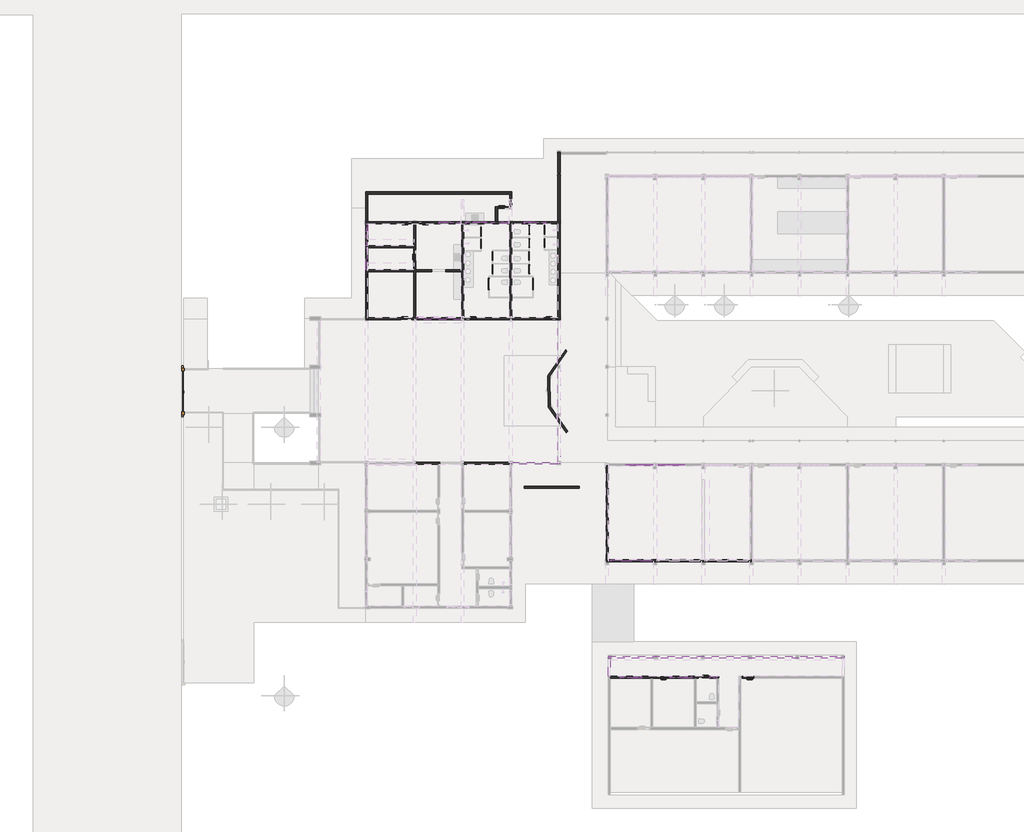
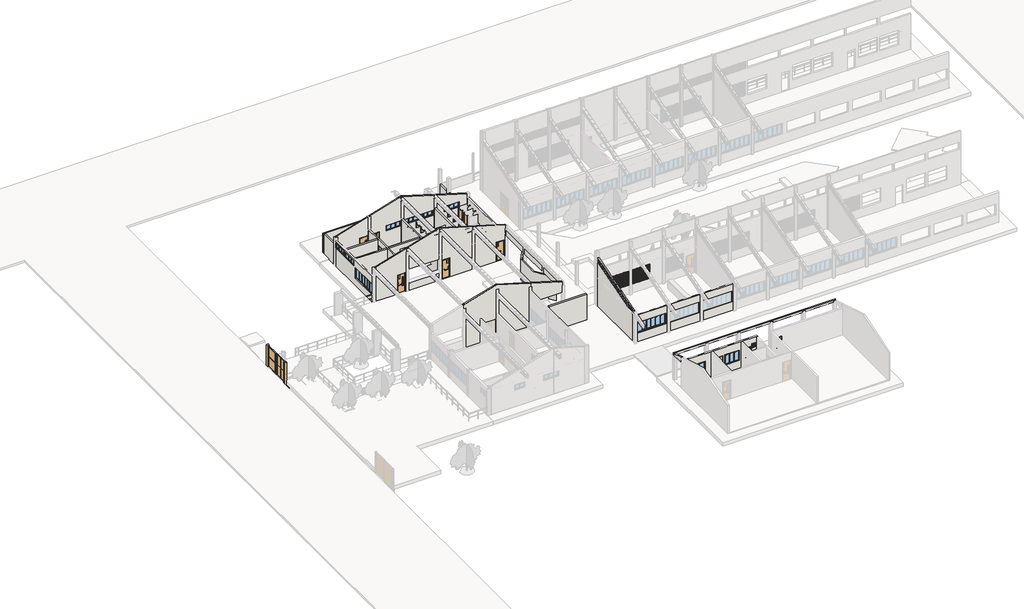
# One storey, part 2 of 12: 29 walls, 23 doors, 12 windows.
"""IFC4 building model written with IfcOpenShell, lengths in millimetres."""

from ifc_helpers import new_model, si_unit, point, frame, frame_2d, origin, place, context, project, spatial, polyline, circle_curve, trimmed, segment, composite_curve, outline, extrude, faceted_brep, transform, mapped, element, save
from components import door_2b58ae42, door_062d9f42, door_b9a7b7f6, door_f5953a39, door_f67fff5c, pt41_300x235cm_02f68b07, porta_60x165_15_827af2f1, porta_60x165_15_384a7155, porta_60x165_15_96589805, porta_60x165_15_8e7424f7, window_f572775f, window_a88563cc, window_1a4b773a, window_300_x_110_bd0b738a, janela_fc375d33, janela_150x110_150_x_110_7297cc43, janela_150x110_150_x_50_c6653376, janela_300x110_300_x_50_d4cdcd56

model = new_model("IFC4")

# Units and contexts
model_context = context("Model", 3, world=origin())
ifc_project = project(units=[si_unit("LENGTHUNIT", "METRE", prefix="MILLI")], contexts=[model_context])

# Site, building, storey
site = spatial("IfcSite", under=ifc_project)
building = spatial("IfcBuilding", under=site)
storey = spatial("IfcBuildingStorey", under=building, Name="Nível 1", Elevation=0.0)

# Doors
placement = place(None, origin())
door_shape = door_2b58ae42(model_context)
element("IfcDoor", 1, ObjectType="Porta sala de aula e laboratorio : Porta sala de aula e laboratorio", at=placement, inside=storey, context=model_context, shape_type="MappedRepresentation", body=[
    mapped(door_shape, transform((6776.5398414, 226.3249037, 300.0), x_axis=(1.0, 0.0, 0.0), y_axis=(0.0, 1.0, 0.0), z_axis=(0.0, 0.0, 1.0))),
])
element("IfcDoor", 2, ObjectType="Porta sala de aula e laboratorio : Porta sala de aula e laboratorio", at=placement, inside=storey, context=model_context, shape_type="MappedRepresentation", body=[
    mapped(door_shape, transform((13056.5285525, 226.3249037, 300.0), x_axis=(1.0, 0.0, 0.0), y_axis=(0.0, 1.0, 0.0), z_axis=(0.0, 0.0, 1.0))),
])
element("IfcDoor", 3, ObjectType="Porta area administrativa : Porta area administrativa", at=placement, inside=storey, context=model_context, shape_type="MappedRepresentation", body=[
    mapped(door_shape, transform((-11803.4712416, 26331.1862478, 300.0), x_axis=(-1.0, 0.0, 0.0), y_axis=(0.0, -1.0, 0.0), z_axis=(0.0, 0.0, 1.0))),
])
door_2_shape = door_062d9f42(model_context)
element("IfcDoor", 4, ObjectType="Porta banheiros : Porta banheiros", at=placement, inside=storey, context=model_context, shape_type="MappedRepresentation", body=[
    mapped(door_2_shape, transform((9826.5285525, 226.3249037, 300.0), x_axis=(1.0, 0.0, 0.0), y_axis=(0.0, 1.0, 0.0), z_axis=(0.0, 0.0, 1.0))),
])
element("IfcDoor", 5, ObjectType="Porta banheiros : Porta banheiros", at=placement, inside=storey, context=model_context, shape_type="MappedRepresentation", body=[
    mapped(door_2_shape, transform((-7093.4714475, 26331.1862478, 300.0), x_axis=(1.0, 0.0, 0.0), y_axis=(0.0, 1.0, 0.0), z_axis=(0.0, 0.0, 1.0))),
])
door_3_shape = door_b9a7b7f6(model_context)
element("IfcDoor", 6, ObjectType="Porta banheiros : Porta banheiros", at=placement, inside=storey, context=model_context, shape_type="MappedRepresentation", body=[
    mapped(door_3_shape, transform((-1303.4714475, 26331.1862478, 300.0), x_axis=(-1.0, 0.0, 0.0), y_axis=(0.0, -1.0, 0.0), z_axis=(0.0, 0.0, 1.0))),
])
door_4_shape = door_f5953a39(model_context)
element("IfcDoor", 7, ObjectType="Porta area de servico : Porta area de servico", at=placement, inside=storey, context=model_context, shape_type="MappedRepresentation", body=[
    mapped(door_4_shape, transform((-11773.4712416, 33331.1862478, 300.0), x_axis=(-1.0, 0.0, 0.0), y_axis=(0.0, -1.0, 0.0), z_axis=(0.0, 0.0, 1.0))),
])
door_5_shape = door_f67fff5c(model_context)
element("IfcDoor", 8, ObjectType="Porta area de servico : Porta area de servico", at=placement, inside=storey, context=model_context, shape_type="MappedRepresentation", body=[
    mapped(door_5_shape, transform((-10553.4712416, 33331.1862478, 300.0), x_axis=(1.0, 0.0, 0.0), y_axis=(0.0, 1.0, 0.0), z_axis=(0.0, 0.0, 1.0))),
])
element("IfcDoor", 9, ObjectType="Porta area de servico : Porta area de servico", at=placement, inside=storey, context=model_context, shape_type="MappedRepresentation", body=[
    mapped(door_5_shape, transform((-11198.4712416, 30951.1862478, 300.0), x_axis=(0.0, -1.0, 0.0), y_axis=(1.0, 0.0, 0.0), z_axis=(0.0, 0.0, 1.0))),
])
element("IfcDoor", 10, ObjectType="Porta area de servico : Porta area de servico", at=placement, inside=storey, context=model_context, shape_type="MappedRepresentation", body=[
    mapped(door_5_shape, transform((-4737.9962656, 34406.185787, 265.0), x_axis=(-1.0, 0.0, 0.0), y_axis=(0.0, -1.0, 0.0), z_axis=(0.0, 0.0, 1.0))),
])
pt41_300x235cm_shape = pt41_300x235cm_02f68b07(model_context)
element("IfcDoor", 11, ObjectType="FDE_PT41_Portão_UsoExterno_ChapaDeAço_2Folhas : PT41_300x235cm", at=placement, inside=storey, context=model_context, shape_type="MappedRepresentation", body=[
    mapped(pt41_300x235cm_shape, transform((-28067.0268603, 21042.6862478, 0.0), x_axis=(0.0, 1.0, 0.0), y_axis=(-1.0, 0.0, 0.0), z_axis=(0.0, 0.0, 1.0))),
])
porta_60x165_15_shape = porta_60x165_15_827af2f1(model_context)
element("IfcDoor", 12, ObjectType="Porta 60x165-15 : De Abrir_1 (uma) folha", at=placement, inside=storey, context=model_context, shape_type="MappedRepresentation", body=[
    mapped(porta_60x165_15_shape, transform((-2847.5042637, 32796.1862478, 300.0), x_axis=(0.0, 1.0, 0.0), y_axis=(-1.0, 0.0, 0.0), z_axis=(0.0, 0.0, 1.0))),
])
element("IfcDoor", 13, ObjectType="Porta 60x165-15 : De Abrir_1 (uma) folha", at=placement, inside=storey, context=model_context, shape_type="MappedRepresentation", body=[
    mapped(porta_60x165_15_shape, transform((-2847.5042637, 31839.9362478, 300.0), x_axis=(0.0, 1.0, 0.0), y_axis=(-1.0, 0.0, 0.0), z_axis=(0.0, 0.0, 1.0))),
])
element("IfcDoor", 14, ObjectType="Porta 60x165-15 : De Abrir_1 (uma) folha", at=placement, inside=storey, context=model_context, shape_type="MappedRepresentation", body=[
    mapped(porta_60x165_15_shape, transform((-2854.5202793, 30891.1862478, 300.0), x_axis=(0.0, 1.0, 0.0), y_axis=(-1.0, 0.0, 0.0), z_axis=(0.0, 0.0, 1.0))),
])
element("IfcDoor", 15, ObjectType="Porta 60x165-15 : De Abrir_1 (uma) folha", at=placement, inside=storey, context=model_context, shape_type="MappedRepresentation", body=[
    mapped(porta_60x165_15_shape, transform((-2849.5202793, 29939.9362478, 300.0), x_axis=(0.0, 1.0, 0.0), y_axis=(-1.0, 0.0, 0.0), z_axis=(0.0, 0.0, 1.0))),
])
porta_60x165_15_2_shape = porta_60x165_15_384a7155(model_context)
element("IfcDoor", 16, ObjectType="Porta 60x165-15 : De Abrir_1 (uma) folha", at=placement, inside=storey, context=model_context, shape_type="MappedRepresentation", body=[
    mapped(porta_60x165_15_2_shape, transform((-1773.4714475, 32796.1862478, 300.0), x_axis=(0.0, 1.0, 0.0), y_axis=(-1.0, 0.0, 0.0), z_axis=(0.0, 0.0, 1.0))),
])
element("IfcDoor", 17, ObjectType="Porta 60x165-15 : De Abrir_1 (uma) folha", at=placement, inside=storey, context=model_context, shape_type="MappedRepresentation", body=[
    mapped(porta_60x165_15_2_shape, transform((-1773.4714475, 31841.1862478, 300.0), x_axis=(0.0, 1.0, 0.0), y_axis=(-1.0, 0.0, 0.0), z_axis=(0.0, 0.0, 1.0))),
])
element("IfcDoor", 18, ObjectType="Porta 60x165-15 : De Abrir_1 (uma) folha", at=placement, inside=storey, context=model_context, shape_type="MappedRepresentation", body=[
    mapped(porta_60x165_15_2_shape, transform((-5547.4226157, 29939.9362478, 300.0), x_axis=(0.0, 1.0, 0.0), y_axis=(-1.0, 0.0, 0.0), z_axis=(0.0, 0.0, 1.0))),
])
element("IfcDoor", 19, ObjectType="Porta 60x165-15 : De Abrir_1 (uma) folha", at=placement, inside=storey, context=model_context, shape_type="MappedRepresentation", body=[
    mapped(porta_60x165_15_2_shape, transform((-5542.4226157, 30891.1862478, 300.0), x_axis=(0.0, 1.0, 0.0), y_axis=(-1.0, 0.0, 0.0), z_axis=(0.0, 0.0, 1.0))),
])
element("IfcDoor", 20, ObjectType="Porta 60x165-15 : De Abrir_1 (uma) folha", at=placement, inside=storey, context=model_context, shape_type="MappedRepresentation", body=[
    mapped(porta_60x165_15_2_shape, transform((-6348.4714475, 32656.1862478, 300.0), x_axis=(0.0, -1.0, 0.0), y_axis=(1.0, 0.0, 0.0), z_axis=(0.0, 0.0, 1.0))),
])
element("IfcDoor", 21, ObjectType="Porta 60x165-15 : De Abrir_1 (uma) folha", at=placement, inside=storey, context=model_context, shape_type="MappedRepresentation", body=[
    mapped(porta_60x165_15_2_shape, transform((-6348.4714475, 31781.1862478, 300.0), x_axis=(0.0, -1.0, 0.0), y_axis=(1.0, 0.0, 0.0), z_axis=(0.0, 0.0, 1.0))),
])
porta_60x165_15_3_shape = porta_60x165_15_96589805(model_context)
element("IfcDoor", 22, ObjectType="Porta 60x165-15 : De Abrir_1 (uma) folha 80cm", at=placement, inside=storey, context=model_context, shape_type="MappedRepresentation", body=[
    mapped(porta_60x165_15_3_shape, transform((-5797.4141591, 28869.0222044, 300.0), x_axis=(0.0, 1.0, 0.0), y_axis=(-1.0, 0.0, 0.0), z_axis=(0.0, 0.0, 1.0))),
])
porta_60x165_15_4_shape = porta_60x165_15_8e7424f7(model_context)
element("IfcDoor", 23, ObjectType="Porta 60x165-15 : De Abrir_1 (uma) folha 80cm", at=placement, inside=storey, context=model_context, shape_type="MappedRepresentation", body=[
    mapped(porta_60x165_15_4_shape, transform((-2599.5287359, 28869.0222044, 300.0), x_axis=(0.0, 1.0, 0.0), y_axis=(-1.0, 0.0, 0.0), z_axis=(0.0, 0.0, 1.0))),
])

# Walls
element("IfcWall", 24, ObjectType="15cm - Parede Genérica", at=placement, inside=storey, context=model_context, shape_type="Brep", body=[
    faceted_brep([(-7623.4714475, 26406.1862478, 300.0), (-7623.4714475, 33256.1862478, 300.0), (-7623.4714475, 33256.1862478, 2960.0), (-7623.4714475, 26406.1862478, 2960.0), (-7773.4714475, 26406.1862478, 300.0), (-7773.4714475, 26406.1862478, 2960.0), (-7773.4714475, 29756.1862478, 2960.0), (-7773.4714475, 29906.1862478, 2960.0), (-7773.4714475, 33256.1862478, 2960.0), (-7773.4714475, 33256.1862478, 300.0), (-7773.4714475, 29906.1862478, 300.0), (-7773.4714475, 29756.1862478, 300.0)], [[[0, 1, 2, 3]], [[4, 5, 6, 7, 8, 9, 10, 11]], [[1, 0, 4, 11, 10, 9]], [[3, 2, 8, 7, 6, 5]], [[2, 1, 9, 8]], [[0, 3, 5, 4]]]),
])
element("IfcWall", 25, ObjectType="15cm - Parede Genérica", at=placement, inside=storey, context=model_context, shape_type="Brep", body=[
    faceted_brep([(-14773.4714475, 33256.1862478, 0.0), (-14623.4714475, 33256.1862478, 0.0), (-623.4714475, 33256.1862478, 0.0), (-623.4714475, 33256.1862478, 300.0), (-623.4714475, 33256.1862478, 2915.0), (-623.4714475, 33256.1862478, 3276.6977012), (-7773.4714475, 33256.1862478, 5421.6977012), (-14773.4714475, 33256.1862478, 3321.6977012), (-14773.4714475, 33256.1862478, 2960.0), (-10123.4712416, 33256.1862478, 2300.0), (-10123.4712416, 33256.1862478, 300.0), (-10983.4712416, 33256.1862478, 300.0), (-10983.4712416, 33256.1862478, 2300.0), (-12203.4712416, 33256.1862478, 300.0), (-12203.4712416, 33256.1862478, 2300.0), (-11343.4712416, 33256.1862478, 2300.0), (-11343.4712416, 33256.1862478, 300.0), (-7838.4714475, 33256.1862478, 2735.0), (-7838.4714475, 33256.1862478, 2165.0), (-9408.4714475, 33256.1862478, 2165.0), (-9408.4714475, 33256.1862478, 2735.0), (-4413.4714475, 33256.1862478, 2735.0), (-4413.4714475, 33256.1862478, 2165.0), (-7483.4714475, 33256.1862478, 2165.0), (-7483.4714475, 33256.1862478, 2735.0), (-1663.4714475, 33256.1862478, 2735.0), (-1663.4714475, 33256.1862478, 2165.0), (-3233.4714475, 33256.1862478, 2165.0), (-3233.4714475, 33256.1862478, 2735.0), (-623.4714475, 33406.1862478, 0.0), (-14623.4714475, 33406.1862478, 0.0), (-14773.4714475, 33406.1862478, 0.0), (-14773.4714475, 33406.1862478, 2400.0), (-14773.4714475, 33406.1862478, 3321.6977012), (-7773.4714475, 33406.1862478, 5421.6977012), (-623.4714475, 33406.1862478, 3276.6977012), (-623.4714475, 33406.1862478, 1300.0), (-623.4714475, 33406.1862478, 100.0), (-10123.4712416, 33406.1862478, 300.0), (-10123.4712416, 33406.1862478, 2300.0), (-10983.4712416, 33406.1862478, 2300.0), (-10983.4712416, 33406.1862478, 300.0), (-12203.4712416, 33406.1862478, 2300.0), (-12203.4712416, 33406.1862478, 300.0), (-11343.4712416, 33406.1862478, 300.0), (-11343.4712416, 33406.1862478, 2300.0), (-7838.4714475, 33406.1862478, 2165.0), (-7838.4714475, 33406.1862478, 2735.0), (-9408.4714475, 33406.1862478, 2735.0), (-9408.4714475, 33406.1862478, 2165.0), (-4413.4714475, 33406.1862478, 2165.0), (-4413.4714475, 33406.1862478, 2735.0), (-7483.4714475, 33406.1862478, 2735.0), (-7483.4714475, 33406.1862478, 2165.0), (-1663.4714475, 33406.1862478, 2165.0), (-1663.4714475, 33406.1862478, 2735.0), (-3233.4714475, 33406.1862478, 2735.0), (-3233.4714475, 33406.1862478, 2165.0)], [[[0, 1, 2, 3, 4, 5, 6, 7, 8], [9, 10, 11, 12], [13, 14, 15, 16], [17, 18, 19, 20], [21, 22, 23, 24], [25, 26, 27, 28]], [[29, 30, 31, 32, 33, 34, 35, 36, 37], [38, 39, 40, 41], [42, 43, 44, 45], [46, 47, 48, 49], [50, 51, 52, 53], [54, 55, 56, 57]], [[2, 1, 0, 31, 30, 29]], [[31, 0, 8, 7, 33, 32]], [[9, 39, 38, 10]], [[39, 9, 12, 40]], [[40, 12, 11, 41]], [[14, 13, 43, 42]], [[15, 14, 42, 45]], [[16, 15, 45, 44]], [[10, 38, 41, 11]], [[43, 13, 16, 44]], [[2, 29, 37, 36, 35, 5, 4, 3]], [[46, 18, 17, 47]], [[19, 49, 48, 20]], [[18, 46, 49, 19]], [[50, 22, 21, 51]], [[52, 24, 23, 53]], [[22, 50, 53, 23]], [[54, 26, 25, 55]], [[27, 57, 56, 28]], [[26, 54, 57, 27]], [[20, 48, 47, 17]], [[24, 52, 51, 21]], [[28, 56, 55, 25]], [[6, 5, 35, 34]], [[7, 6, 34, 33]]]),
])
element("IfcWall", 26, ObjectType="15cm - Parede Genérica", at=placement, inside=storey, context=model_context, shape_type="SweptSolid", body=[
    extrude(outline(polyline([(-773.4714475, 26256.1862478), (-773.4714475, 33256.1862478), (-623.4714475, 33256.1862478), (-623.4714475, 26256.1862478), (-773.4714475, 26256.1862478)])), frame((0.0, 0.0, 300.0), z_axis=(0.0, 0.0, 1.0), x_axis=(1.0, 0.0, 0.0)), (0.0, 0.0, 1.0), 2615.0),
])
element("IfcWall", 27, ObjectType="15cm - Parede Genérica", at=placement, inside=storey, context=model_context, shape_type="Brep", body=[
    faceted_brep([(-773.4714475, 26406.1862478, 245.0), (-7823.5268603, 26406.1862478, 245.0), (-7823.5268603, 26406.1862478, 300.0), (-7573.4714475, 26406.1862478, 300.0), (-7573.4714475, 26406.1862478, 2960.0), (-4323.4714475, 26406.1862478, 2960.0), (-4323.4714475, 26406.1862478, 300.0), (-4073.4714475, 26406.1862478, 300.0), (-4073.4714475, 26406.1862478, 2960.0), (-823.4714475, 26406.1862478, 2960.0), (-823.4714475, 26406.1862478, 300.0), (-773.4714475, 26406.1862478, 300.0), (-6663.4714475, 26406.1862478, 300.0), (-6663.4714475, 26406.1862478, 2430.0), (-7523.4714475, 26406.1862478, 2430.0), (-7523.4714475, 26406.1862478, 300.0), (-1733.4714475, 26406.1862478, 2430.0), (-1733.4714475, 26406.1862478, 300.0), (-873.4714475, 26406.1862478, 300.0), (-873.4714475, 26406.1862478, 2430.0), (-7823.5268603, 26256.1862478, 245.0), (-773.4714475, 26256.1862478, 245.0), (-773.4714475, 26256.1862478, 300.0), (-823.4714475, 26256.1862478, 300.0), (-823.4714475, 26256.1862478, 3630.0), (-773.4714475, 26256.1862478, 3630.0), (-773.4714475, 26256.1862478, 4060.4477012), (-7788.3111843, 26256.1862478, 6164.8996222), (-7788.3111843, 26256.1862478, 5650.0), (-7573.4714475, 26256.1862478, 5650.0), (-7573.4714475, 26256.1862478, 300.0), (-7823.5268603, 26256.1862478, 300.0), (-6663.4714475, 26256.1862478, 2430.0), (-6663.4714475, 26256.1862478, 300.0), (-7523.4714475, 26256.1862478, 300.0), (-7523.4714475, 26256.1862478, 2430.0), (-1733.4714475, 26256.1862478, 300.0), (-1733.4714475, 26256.1862478, 2430.0), (-873.4714475, 26256.1862478, 2430.0), (-873.4714475, 26256.1862478, 300.0), (-4073.4714475, 26256.1862478, 300.0), (-4323.4714475, 26256.1862478, 300.0), (-4323.4714475, 26256.1862478, 4700.0), (-4073.4714475, 26256.1862478, 4700.0), (-773.4714475, 26350.3088684, 3630.0), (-773.4714475, 26350.3088684, 4060.4477012), (-7573.4714475, 26350.3088684, 5650.0), (-7573.4714475, 26350.3088684, 2960.0), (-4323.4714475, 26350.3088684, 2960.0), (-4323.4714475, 26350.3088684, 4700.0), (-4073.4714475, 26350.3088684, 4700.0), (-4073.4714475, 26350.3088684, 2960.0), (-823.4714475, 26350.3088684, 2960.0), (-823.4714475, 26350.3088684, 3630.0), (-7788.3111843, 26350.3088684, 5650.0), (-7788.3111843, 26350.3088684, 6164.8996222)], [[[0, 1, 2, 3, 4, 5, 6, 7, 8, 9, 10, 11], [12, 13, 14, 15], [16, 17, 18, 19]], [[20, 21, 22, 23, 24, 25, 26, 27, 28, 29, 30, 31], [32, 33, 34, 35], [36, 37, 38, 39], [40, 41, 42, 43]], [[1, 0, 21, 20]], [[21, 0, 11, 22]], [[26, 25, 44, 45]], [[13, 12, 33, 32]], [[14, 13, 32, 35]], [[15, 14, 35, 34]], [[16, 37, 36, 17]], [[37, 16, 19, 38]], [[38, 19, 18, 39]], [[1, 20, 31, 2]], [[33, 12, 15, 34]], [[17, 36, 39, 18]], [[30, 3, 2, 31]], [[3, 30, 29, 46, 47, 4]], [[6, 41, 40, 7]], [[41, 6, 5, 48, 49, 42]], [[7, 40, 43, 50, 51, 8]], [[10, 23, 22, 11]], [[23, 10, 9, 52, 53, 24]], [[46, 54, 55, 45, 44, 53, 52, 51, 50, 49, 48, 47]], [[29, 28, 54, 46]], [[43, 42, 49, 50]], [[25, 24, 53, 44]], [[27, 55, 54, 28]], [[4, 47, 48, 5]], [[8, 51, 52, 9]], [[27, 26, 45, 55]]]),
])
element("IfcWall", 28, ObjectType="15cm - Parede Genérica", at=placement, inside=storey, context=model_context, shape_type="SweptSolid", body=[
    extrude(outline(polyline([(-4123.4714475, 33256.1862478), (-4123.4714475, 26406.1862478), (-4273.4714475, 26406.1862478), (-4273.4714475, 33256.1862478), (-4123.4714475, 33256.1862478)])), frame((0.0, 0.0, 300.0), z_axis=(0.0, 0.0, 1.0), x_axis=(1.0, 0.0, 0.0)), (0.0, 0.0, 1.0), 2660.0),
])
element("IfcWall", 29, ObjectType="15cm - Parede Genérica", at=placement, inside=storey, context=model_context, shape_type="Brep", body=[
    faceted_brep([(-14773.4714475, 33256.1862478, 2960.0), (-14773.4714475, 33256.1862478, 0.0), (-14773.4714475, 26256.1862478, 0.0), (-14773.4714475, 26256.1862478, 2960.0), (-14773.4714475, 26581.1862478, 965.0), (-14773.4714475, 29581.1862478, 965.0), (-14773.4714475, 29581.1862478, 2135.0), (-14773.4714475, 26581.1862478, 2135.0), (-14773.4714475, 31658.6862478, 2165.0), (-14773.4714475, 33228.6862478, 2165.0), (-14773.4714475, 33228.6862478, 2735.0), (-14773.4714475, 31658.6862478, 2735.0), (-14773.4714475, 31478.6862478, 2165.0), (-14773.4714475, 31478.6862478, 2735.0), (-14773.4714475, 29908.6862478, 2735.0), (-14773.4714475, 29908.6862478, 2165.0), (-14623.4714475, 33256.1862478, 0.0), (-14623.4714475, 33256.1862478, 2960.0), (-14623.4714475, 31631.1862478, 2960.0), (-14623.4714475, 31481.1862478, 2960.0), (-14623.4714475, 29906.1862478, 2960.0), (-14623.4714475, 29756.1862478, 2960.0), (-14623.4714475, 26256.1862478, 2960.0), (-14623.4714475, 26256.1862478, 0.0), (-14623.4714475, 26581.1862478, 965.0), (-14623.4714475, 26581.1862478, 2135.0), (-14623.4714475, 29581.1862478, 2135.0), (-14623.4714475, 29581.1862478, 965.0), (-14623.4714475, 31658.6862478, 2165.0), (-14623.4714475, 31658.6862478, 2735.0), (-14623.4714475, 33228.6862478, 2735.0), (-14623.4714475, 33228.6862478, 2165.0), (-14623.4714475, 31478.6862478, 2165.0), (-14623.4714475, 29908.6862478, 2165.0), (-14623.4714475, 29908.6862478, 2735.0), (-14623.4714475, 31478.6862478, 2735.0)], [[[0, 1, 2, 3], [4, 5, 6, 7], [8, 9, 10, 11], [12, 13, 14, 15]], [[16, 17, 18, 19, 20, 21, 22, 23], [24, 25, 26, 27], [28, 29, 30, 31], [32, 33, 34, 35]], [[2, 1, 16, 23]], [[0, 3, 22, 21, 20, 19, 18, 17]], [[3, 2, 23, 22]], [[0, 17, 16, 1]], [[25, 24, 4, 7]], [[26, 25, 7, 6]], [[27, 26, 6, 5]], [[24, 27, 5, 4]], [[29, 28, 8, 11]], [[30, 29, 11, 10]], [[31, 30, 10, 9]], [[28, 31, 9, 8]], [[13, 12, 32, 35]], [[14, 13, 35, 34]], [[15, 14, 34, 33]], [[12, 15, 33, 32]]]),
])
element("IfcWall", 30, ObjectType="15cm - Parede Genérica", at=placement, inside=storey, context=model_context, shape_type="Brep", body=[
    faceted_brep([(-11123.4712416, 33256.1862478, 2960.0), (-11123.4712416, 29906.1862478, 2960.0), (-11123.4712416, 29756.1862478, 2960.0), (-11123.4712416, 26406.1862478, 2960.0), (-11123.4712416, 26406.1862478, 300.0), (-11123.4712416, 29756.1862478, 300.0), (-11123.4712416, 29906.1862478, 300.0), (-11123.4712416, 30521.1862478, 300.0), (-11123.4712416, 30521.1862478, 2300.0), (-11123.4712416, 31381.1862478, 2300.0), (-11123.4712416, 31381.1862478, 300.0), (-11123.4712416, 33256.1862478, 300.0), (-11273.4712416, 26406.1862478, 2960.0), (-11273.4712416, 29756.1862478, 2960.0), (-11273.4712416, 29906.1862478, 2960.0), (-11273.4712416, 31481.1862478, 2960.0), (-11273.4712416, 31631.1862478, 2960.0), (-11273.4712416, 33256.1862478, 2960.0), (-11273.4712416, 33256.1862478, 300.0), (-11273.4712416, 31631.1862478, 300.0), (-11273.4712416, 31481.1862478, 300.0), (-11273.4712416, 31381.1862478, 300.0), (-11273.4712416, 31381.1862478, 2300.0), (-11273.4712416, 30521.1862478, 2300.0), (-11273.4712416, 30521.1862478, 300.0), (-11273.4712416, 29906.1862478, 300.0), (-11273.4712416, 29756.1862478, 300.0), (-11273.4712416, 26406.1862478, 300.0)], [[[0, 1, 2, 3, 4, 5, 6, 7, 8, 9, 10, 11]], [[12, 13, 14, 15, 16, 17, 18, 19, 20, 21, 22, 23, 24, 25, 26, 27]], [[18, 11, 10, 21, 20, 19]], [[4, 27, 26, 25, 24, 7, 6, 5]], [[3, 2, 1, 0, 17, 16, 15, 14, 13, 12]], [[0, 11, 18, 17]], [[23, 8, 7, 24]], [[8, 23, 22, 9]], [[9, 22, 21, 10]], [[4, 3, 12, 27]]]),
])
element("IfcWall", 31, ObjectType="15cm - Parede Genérica", at=placement, inside=storey, context=model_context, shape_type="SweptSolid", body=[
    extrude(outline(polyline([(300.0, -7773.4714475), (2960.0, -7773.4714475), (2960.0, -11123.4712416), (300.0, -11123.4712416), (300.0, -9952.6789714), (2400.0, -9952.6789714), (2400.0, -8948.7737339), (300.0, -8948.7737339), (300.0, -7773.4714475)])), frame((0.0, 29756.1862478, 0.0), z_axis=(0.0, 1.0, 0.0), x_axis=(0.0, 0.0, 1.0)), (0.0, 0.0, 1.0), 150.0),
    extrude(outline(polyline([(-14623.4714475, 29756.1862478), (-14623.4714475, 29906.1862478), (-11273.4712416, 29906.1862478), (-11273.4712416, 29756.1862478), (-14623.4714475, 29756.1862478)])), frame((0.0, 0.0, 300.0), z_axis=(0.0, 0.0, 1.0), x_axis=(1.0, 0.0, 0.0)), (0.0, 0.0, 1.0), 2660.0),
])
element("IfcWall", 32, ObjectType="15cm - Parede Genérica", at=placement, inside=storey, context=model_context, shape_type="SweptSolid", body=[
    extrude(outline(polyline([(-11273.4712416, 31481.1862478), (-14623.4714475, 31481.1862478), (-14623.4714475, 31631.1862478), (-11273.4712416, 31631.1862478), (-11273.4712416, 31481.1862478)])), frame((0.0, 0.0, 300.0), z_axis=(0.0, 0.0, 1.0), x_axis=(1.0, 0.0, 0.0)), (0.0, 0.0, 1.0), 2660.0),
])
element("IfcWall", 33, ObjectType="15cm - Parede Genérica", at=placement, inside=storey, context=model_context, shape_type="Brep", body=[
    faceted_brep([(-9348.3111843, 15896.0481484, 2350.0), (-9348.3111843, 15896.0481484, 300.0), (-11073.5268603, 15896.0481484, 300.0), (-11073.5268603, 15896.0481484, 4700.0), (-11323.4946316, 15896.0481484, 4700.0), (-11323.4946316, 15896.0481484, 5104.2073698), (-7788.3111843, 15896.0481484, 6164.762404), (-4138.3111843, 15896.0481484, 5069.8996222), (-4138.3111843, 15896.0481484, 4700.0), (-4323.5268603, 15896.0481484, 4700.0), (-4323.5268603, 15896.0481484, 300.0), (-7590.9938978, 15896.0481484, 300.0), (-7590.9938978, 15896.0481484, 5650.0), (-7840.9938978, 15896.0481484, 5650.0), (-7840.9938978, 15896.0481484, 300.0), (-7858.3111843, 15896.0481484, 300.0), (-7858.3111843, 15896.0481484, 2350.0), (-9348.3111843, 15746.0481484, 300.0), (-9348.3111843, 15746.0481484, 2350.0), (-7858.3111843, 15746.0481484, 2350.0), (-7858.3111843, 15746.0481484, 300.0), (-7840.9938978, 15746.0481484, 300.0), (-7840.9938978, 15746.0481484, 5650.0), (-7590.9938978, 15746.0481484, 5650.0), (-7590.9938978, 15746.0481484, 300.0), (-4323.5268603, 15746.0481484, 300.0), (-4323.5268603, 15746.0481484, 4700.0), (-4138.3111843, 15746.0481484, 4700.0), (-4138.3111843, 15746.0481484, 5069.8996222), (-7788.3111843, 15746.0481484, 6164.8996222), (-11323.4946316, 15746.0481484, 5104.2073698), (-11323.4946316, 15746.0481484, 4700.0), (-11073.5268603, 15746.0481484, 4700.0), (-11073.5268603, 15746.0481484, 300.0), (-9538.3111843, 15746.0481484, 300.0), (-9388.3111843, 15746.0481484, 300.0), (-4138.3111843, 15747.2981484, 5069.8996222)], [[[0, 1, 2, 3, 4, 5, 6, 7, 8, 9, 10, 11, 12, 13, 14, 15, 16]], [[17, 18, 19, 20, 21, 22, 23, 24, 25, 26, 27, 28, 29, 30, 31, 32, 33, 34, 35]], [[1, 17, 35, 34, 33, 2]], [[20, 15, 14, 21]], [[10, 25, 24, 11]], [[0, 18, 17, 1]], [[18, 0, 16, 19]], [[19, 16, 15, 20]], [[30, 5, 4, 31]], [[10, 9, 26, 25]], [[3, 2, 33, 32]], [[13, 22, 21, 14]], [[23, 12, 11, 24]], [[7, 6, 29, 28, 36]], [[26, 9, 8, 27]], [[3, 32, 31, 4]], [[12, 23, 22, 13]], [[6, 5, 30, 29]], [[7, 36, 28, 27, 8]]]),
])
element("IfcWall", 34, ObjectType="15cm - Parede Genérica", at=placement, inside=storey, context=model_context, shape_type="Brep", body=[
    faceted_brep([(-14773.4714475, 35406.1862478, 0.0), (-14623.4714475, 35406.1862478, 0.0), (-4123.4714475, 35406.1862478, 0.0), (-4123.4714475, 35406.1862478, 100.0), (-4123.4714475, 35406.1862478, 200.0), (-4123.4714475, 35406.1862478, 2300.0), (-4123.4714475, 35406.1862478, 2400.0), (-14623.4714475, 35406.1862478, 2400.0), (-14773.4714475, 35406.1862478, 2400.0), (-14773.4714475, 35406.1862478, 200.0), (-4123.4714475, 35556.1862478, 0.0), (-14773.4714475, 35556.1862478, 0.0), (-14773.4714475, 35556.1862478, 200.0), (-14773.4714475, 35556.1862478, 2400.0), (-4123.4714475, 35556.1862478, 2400.0), (-4123.4714475, 35556.1862478, 200.0)], [[[0, 1, 2, 3, 4, 5, 6, 7, 8, 9]], [[10, 11, 12, 13, 14, 15]], [[2, 1, 0, 11, 10]], [[8, 7, 6, 14, 13]], [[2, 10, 15, 14, 6, 5, 4, 3]], [[8, 13, 12, 11, 0, 9]]]),
])
element("IfcWall", 35, ObjectType="15cm - Parede Genérica", at=placement, inside=storey, context=model_context, shape_type="Brep", body=[
    faceted_brep([(-4273.4714475, 35406.1862478, 100.0), (-4273.4714475, 34331.185787, 100.0), (-4273.4714475, 34331.185787, 200.0), (-4273.4714475, 34331.185787, 300.0), (-4273.4714475, 34331.185787, 2300.0), (-4273.4714475, 34481.185787, 2300.0), (-4273.4714475, 35406.1862478, 2300.0), (-4273.4714475, 35406.1862478, 300.0), (-4273.4714475, 35406.1862478, 200.0), (-4123.4714475, 34331.185787, 100.0), (-4123.4714475, 35406.1862478, 100.0), (-4123.4714475, 35406.1862478, 200.0), (-4123.4714475, 35406.1862478, 2300.0), (-4123.4714475, 34331.185787, 2300.0), (-4123.4714475, 34331.185787, 200.0)], [[[0, 1, 2, 3, 4, 5, 6, 7, 8]], [[9, 10, 11, 12, 13, 14]], [[1, 0, 10, 9]], [[6, 5, 4, 13, 12]], [[0, 8, 7, 6, 12, 11, 10]], [[1, 9, 14, 13, 4, 3, 2]]]),
])
element("IfcWall", 36, ObjectType="15cm - Parede Genérica", at=placement, inside=storey, context=model_context, shape_type="Brep", body=[
    faceted_brep([(-14773.4714475, 35406.1862478, 0.0), (-14773.4714475, 33406.1862478, 0.0), (-14773.4714475, 33406.1862478, 2400.0), (-14773.4714475, 35406.1862478, 2400.0), (-14623.4714475, 35406.1862478, 0.0), (-14623.4714475, 35406.1862478, 200.0), (-14623.4714475, 35406.1862478, 300.0), (-14623.4714475, 35406.1862478, 2400.0), (-14623.4714475, 33406.1862478, 2400.0), (-14623.4714475, 33406.1862478, 300.0), (-14623.4714475, 33406.1862478, 200.0), (-14623.4714475, 33406.1862478, 0.0)], [[[0, 1, 2, 3]], [[4, 5, 6, 7, 8, 9, 10, 11]], [[1, 0, 4, 11]], [[3, 2, 8, 7]], [[0, 3, 7, 6, 5, 4]], [[2, 1, 11, 10, 9, 8]]]),
])
element("IfcWall", 37, ObjectType="15cm - Parede Genérica", at=placement, inside=storey, context=model_context, shape_type="Brep", body=[
    faceted_brep([(-5323.4714475, 34481.185787, 300.0), (-5323.4714475, 33406.1862478, 300.0), (-5323.4714475, 33406.1862478, 2300.0), (-5323.4714475, 34481.185787, 2300.0), (-5173.4714475, 34481.185787, 300.0), (-5173.4714475, 34481.185787, 2300.0), (-5173.4714475, 34331.185787, 2300.0), (-5173.4714475, 33406.1862478, 2300.0), (-5173.4714475, 33406.1862478, 300.0), (-5173.4714475, 34331.185787, 300.0)], [[[0, 1, 2, 3]], [[4, 5, 6, 7, 8, 9]], [[1, 0, 4, 9, 8]], [[3, 2, 7, 6, 5]], [[2, 1, 8, 7]], [[0, 3, 5, 4]]]),
])
element("IfcWall", 38, ObjectType="15cm - Parede Genérica", at=placement, inside=storey, context=model_context, shape_type="Brep", body=[
    faceted_brep([(2726.528714, 8631.1862478, 300.0), (13301.528714, 8631.1862478, 300.0), (13301.528714, 8631.1862478, 3250.0), (13226.528714, 8631.1862478, 3250.0), (2726.528714, 8631.1862478, 3250.0), (13051.5227001, 8631.1862478, 1265.0), (10051.5227001, 8631.1862478, 1265.0), (10051.5227001, 8631.1862478, 2435.0), (13051.5227001, 8631.1862478, 2435.0), (9551.5227001, 8631.1862478, 1265.0), (6551.5227001, 8631.1862478, 1265.0), (6551.5227001, 8631.1862478, 2435.0), (9551.5227001, 8631.1862478, 2435.0), (6051.5227001, 8631.1862478, 1265.0), (3051.5227001, 8631.1862478, 1265.0), (3051.5227001, 8631.1862478, 2435.0), (6051.5227001, 8631.1862478, 2435.0), (2726.528714, 8781.1862478, 300.0), (2726.528714, 8781.1862478, 3250.0), (13226.528714, 8781.1862478, 3250.0), (13301.528714, 8781.1862478, 3250.0), (13301.528714, 8781.1862478, 300.0), (13226.528714, 8781.1862478, 300.0), (9876.4731397, 8781.1862478, 300.0), (9726.4731397, 8781.1862478, 300.0), (2876.528714, 8781.1862478, 300.0), (13051.5227001, 8781.1862478, 1265.0), (13051.5227001, 8781.1862478, 2435.0), (10051.5227001, 8781.1862478, 2435.0), (10051.5227001, 8781.1862478, 1265.0), (9551.5227001, 8781.1862478, 1265.0), (9551.5227001, 8781.1862478, 2435.0), (6551.5227001, 8781.1862478, 2435.0), (6551.5227001, 8781.1862478, 1265.0), (6051.5227001, 8781.1862478, 1265.0), (6051.5227001, 8781.1862478, 2435.0), (3051.5227001, 8781.1862478, 2435.0), (3051.5227001, 8781.1862478, 1265.0)], [[[0, 1, 2, 3, 4], [5, 6, 7, 8], [9, 10, 11, 12], [13, 14, 15, 16]], [[17, 18, 19, 20, 21, 22, 23, 24, 25], [26, 27, 28, 29], [30, 31, 32, 33], [34, 35, 36, 37]], [[1, 0, 17, 25, 24, 23, 22, 21]], [[2, 1, 21, 20]], [[4, 3, 2, 20, 19, 18]], [[27, 26, 5, 8]], [[28, 27, 8, 7]], [[29, 28, 7, 6]], [[26, 29, 6, 5]], [[31, 30, 9, 12]], [[32, 31, 12, 11]], [[33, 32, 11, 10]], [[30, 33, 10, 9]], [[35, 34, 13, 16]], [[36, 35, 16, 15]], [[37, 36, 15, 14]], [[34, 37, 14, 13]], [[0, 4, 18, 17]]]),
])
element("IfcWall", 39, ObjectType="15cm - Parede Genérica", at=placement, inside=storey, context=model_context, shape_type="Brep", body=[
    faceted_brep([(10926.5285525, 151.3249037, 3300.0), (10776.5285525, 151.3249037, 3300.0), (9276.5285525, 151.3249037, 3300.0), (9126.5285525, 151.3249037, 3300.0), (6126.5398414, 151.3249037, 3300.0), (5976.5398414, 151.3249037, 3300.0), (3026.5285525, 151.3249037, 3300.0), (3026.5285525, 151.3249037, 300.0), (5976.5398414, 151.3249037, 300.0), (6126.5398414, 151.3249037, 300.0), (6346.5398414, 151.3249037, 300.0), (6346.5398414, 151.3249037, 2430.0), (7206.5398414, 151.3249037, 2430.0), (7206.5398414, 151.3249037, 300.0), (9126.5285525, 151.3249037, 300.0), (9276.5285525, 151.3249037, 300.0), (9396.5285525, 151.3249037, 300.0), (9396.5285525, 151.3249037, 2430.0), (10256.5285525, 151.3249037, 2430.0), (10256.5285525, 151.3249037, 300.0), (10776.5285525, 151.3249037, 300.0), (10926.5285525, 151.3249037, 300.0), (3756.5398414, 151.3249037, 1265.0), (3756.5398414, 151.3249037, 2435.0), (5326.5398414, 151.3249037, 2435.0), (5326.5398414, 151.3249037, 1265.0), (7406.5285525, 151.3249037, 1265.0), (7406.5285525, 151.3249037, 2435.0), (8976.5285525, 151.3249037, 2435.0), (8976.5285525, 151.3249037, 1265.0), (10285.857885, 151.3249037, 2200.0), (10285.857885, 151.3249037, 2700.0), (10785.857885, 151.3249037, 2700.0), (10785.857885, 151.3249037, 2200.0), (3026.5285525, 301.3249037, 3300.0), (10926.5285525, 301.3249037, 3300.0), (10926.5285525, 301.3249037, 300.0), (10256.5285525, 301.3249037, 300.0), (10256.5285525, 301.3249037, 2430.0), (9396.5285525, 301.3249037, 2430.0), (9396.5285525, 301.3249037, 300.0), (7206.5398414, 301.3249037, 300.0), (7206.5398414, 301.3249037, 2430.0), (6346.5398414, 301.3249037, 2430.0), (6346.5398414, 301.3249037, 300.0), (3026.5285525, 301.3249037, 300.0), (3756.5398414, 301.3249037, 2435.0), (3756.5398414, 301.3249037, 1265.0), (5326.5398414, 301.3249037, 1265.0), (5326.5398414, 301.3249037, 2435.0), (7406.5285525, 301.3249037, 2435.0), (7406.5285525, 301.3249037, 1265.0), (8976.5285525, 301.3249037, 1265.0), (8976.5285525, 301.3249037, 2435.0), (10285.857885, 301.3249037, 2700.0), (10285.857885, 301.3249037, 2200.0), (10785.857885, 301.3249037, 2200.0), (10785.857885, 301.3249037, 2700.0)], [[[0, 1, 2, 3, 4, 5, 6, 7, 8, 9, 10, 11, 12, 13, 14, 15, 16, 17, 18, 19, 20, 21], [22, 23, 24, 25], [26, 27, 28, 29], [30, 31, 32, 33]], [[34, 35, 36, 37, 38, 39, 40, 41, 42, 43, 44, 45], [46, 47, 48, 49], [50, 51, 52, 53], [54, 55, 56, 57]], [[36, 21, 20, 19, 37]], [[13, 41, 40, 16, 15, 14]], [[7, 45, 44, 10, 9, 8]], [[6, 5, 4, 3, 2, 1, 0, 35, 34]], [[7, 6, 34, 45]], [[0, 21, 36, 35]], [[12, 42, 41, 13]], [[42, 12, 11, 43]], [[43, 11, 10, 44]], [[19, 18, 38, 37]], [[18, 17, 39, 38]], [[17, 16, 40, 39]], [[23, 22, 47, 46]], [[24, 23, 46, 49]], [[25, 24, 49, 48]], [[22, 25, 48, 47]], [[26, 51, 50, 27]], [[27, 50, 53, 28]], [[28, 53, 52, 29]], [[51, 26, 29, 52]], [[31, 30, 55, 54]], [[32, 31, 54, 57]], [[33, 32, 57, 56]], [[30, 33, 56, 55]]]),
])
element("IfcWall", 40, ObjectType="15cm - Parede Genérica", at=placement, inside=storey, context=model_context, shape_type="SweptSolid", body=[
    extrude(outline(composite_curve([segment(polyline([(-216.116531, 24084.1393456), (-123.2833576, 23966.317438)]), True, "CONTINUOUS"), segment(trimmed(circle_curve(frame_2d((2149.9431525, 21081.1862478)), 3673.0832758), [point((-123.2833576, 23966.317438))], [point((-64.7112229, 18150.854057))], True, "CARTESIAN"), True, "CONTINUOUS"), segment(polyline([(-64.7112229, 18150.854057), (-155.1524494, 18031.1862478)]), True, "CONTINUOUS"), segment(trimmed(circle_curve(frame_2d((2149.9431525, 21081.1862478)), 3823.0832758), [point((-155.1524494, 18031.1862478))], [point((-216.116531, 24084.1393456))], False, "CARTESIAN"), True, "CONTINUOUS")], self_intersect=False)), frame((0.0, 0.0, 300.0), z_axis=(0.0, 0.0, 1.0), x_axis=(1.0, 0.0, 0.0)), (0.0, 0.0, 1.0), 2600.0),
])
element("IfcWall", 41, ObjectType="15cm - Parede Genérica", at=placement, inside=storey, context=model_context, shape_type="SweptSolid", body=[
    extrude(outline(polyline([(2300.0, -4273.4714475), (2300.0, -5173.4714475), (300.0, -5173.4714475), (300.0, -5167.9962656), (2265.0, -5167.9962656), (2265.0, -4307.9962656), (300.0, -4307.9962656), (300.0, -4273.4714475), (2300.0, -4273.4714475)])), frame((0.0, 34331.185787, 0.0), z_axis=(0.0, 1.0, 0.0), x_axis=(0.0, 0.0, 1.0)), (0.0, 0.0, 1.0), 150.0),
])
element("IfcWall", 42, ObjectType="15cm - Parede Genérica", at=placement, inside=storey, context=model_context, shape_type="SweptSolid", body=[
    extrude(outline(polyline([(-11073.5268603, 26406.1862478), (-7823.5268603, 26406.1862478), (-7823.5268603, 26256.1862478), (-11073.5268603, 26256.1862478), (-11073.5268603, 26406.1862478)])), frame((0.0, 0.0, 300.0), z_axis=(0.0, 0.0, 1.0), x_axis=(1.0, 0.0, 0.0)), (0.0, 0.0, 1.0), 1000.0),
])
element("IfcWall", 43, ObjectType="15cm - Parede Genérica", at=placement, inside=storey, context=model_context, shape_type="Brep", body=[
    faceted_brep([(-12233.4712416, 26406.1862478, 2430.0), (-12233.4712416, 26406.1862478, 300.0), (-14573.4714475, 26406.1862478, 300.0), (-14573.4714475, 26406.1862478, 2960.0), (-11323.4714475, 26406.1862478, 2960.0), (-11323.4714475, 26406.1862478, 300.0), (-11373.4712416, 26406.1862478, 300.0), (-11373.4712416, 26406.1862478, 2430.0), (-12233.4712416, 26256.1862478, 300.0), (-12233.4712416, 26256.1862478, 2430.0), (-11373.4712416, 26256.1862478, 2430.0), (-11373.4712416, 26256.1862478, 300.0), (-11323.4714475, 26256.1862478, 300.0), (-11323.4714475, 26256.1862478, 4700.0), (-11073.5268603, 26256.1862478, 4700.0), (-11073.5268603, 26256.1862478, 5179.1977012), (-14623.4714475, 26256.1862478, 4114.214325), (-14623.4714475, 26256.1862478, 4100.0), (-14573.4714475, 26256.1862478, 4100.0), (-14573.4714475, 26256.1862478, 300.0), (-14623.4714475, 26350.3088684, 4114.214325), (-14623.4714475, 26350.3088684, 4100.0), (-11073.5268603, 26350.3088684, 5179.1977012), (-11073.5268603, 26350.3088684, 4700.0), (-14573.4714475, 26350.3088684, 4100.0), (-14573.4714475, 26350.3088684, 2960.0), (-11323.4714475, 26350.3088684, 4700.0), (-11323.4714475, 26350.3088684, 2960.0)], [[[0, 1, 2, 3, 4, 5, 6, 7]], [[8, 9, 10, 11, 12, 13, 14, 15, 16, 17, 18, 19]], [[1, 8, 19, 2]], [[11, 6, 5, 12]], [[17, 16, 20, 21]], [[0, 9, 8, 1]], [[9, 0, 7, 10]], [[10, 7, 6, 11]], [[22, 15, 14, 23]], [[3, 2, 19, 18, 24, 25]], [[26, 13, 12, 5, 4, 27]], [[18, 17, 21, 24]], [[13, 26, 23, 14]], [[3, 25, 27, 4]], [[20, 22, 23, 26, 27, 25, 24, 21]], [[16, 15, 22, 20]]]),
])
element("IfcWall", 44, ObjectType="15cm - Parede Genérica", at=placement, inside=storey, context=model_context, shape_type="Brep", body=[
    faceted_brep([(-11073.5268603, 26256.1862478, 2700.0), (-7823.5268603, 26256.1862478, 2700.0), (-7823.5268603, 26256.1862478, 6154.1977012), (-11073.5268603, 26256.1862478, 5179.1977012), (-11073.5268603, 26256.1862478, 4700.0), (-11073.5268603, 26406.1862478, 2700.0), (-11073.5268603, 26406.1862478, 2960.0), (-7823.5268603, 26406.1862478, 2960.0), (-7823.5268603, 26406.1862478, 2700.0), (-7823.5268603, 26350.3088684, 2960.0), (-7823.5268603, 26350.3088684, 6154.1977012), (-11073.5268603, 26350.3088684, 5179.1977012), (-11073.5268603, 26350.3088684, 4700.0), (-11073.5268603, 26350.3088684, 2960.0)], [[[0, 1, 2, 3, 4]], [[5, 6, 7, 8]], [[1, 0, 5, 8]], [[2, 1, 8, 7, 9, 10]], [[0, 4, 3, 11, 12, 13, 6, 5]], [[3, 2, 10, 11]], [[9, 7, 6, 13]], [[9, 13, 12, 11, 10]]]),
])
element("IfcWall", 45, ObjectType="15cm - Parede Genérica", at=placement, inside=storey, context=model_context, shape_type="Brep", body=[
    faceted_brep([(-773.4714475, 38461.1862478, 100.0), (-773.4714475, 36956.1862478, 100.0), (-773.4714475, 36956.1862478, 1300.0), (-773.4714475, 38461.1862478, 1300.0), (-623.4714475, 38461.1862478, 100.0), (-623.4714475, 38461.1862478, 1300.0), (-623.4714475, 38311.1862478, 1300.0), (-623.4714475, 36956.1862478, 1300.0), (-623.4714475, 36956.1862478, 100.0), (-623.4714475, 38311.1862478, 100.0)], [[[0, 1, 2, 3]], [[4, 5, 6, 7, 8, 9]], [[1, 0, 4, 9, 8]], [[2, 1, 8, 7]], [[3, 2, 7, 6, 5]], [[0, 3, 5, 4]]]),
])
element("IfcWall", 46, ObjectType="15cm - Parede Genérica", at=placement, inside=storey, context=model_context, shape_type="SweptSolid", body=[
    extrude(outline(polyline([(-773.4714475, 33406.1862478), (-773.4714475, 36831.8535557), (-623.4714475, 36831.8535557), (-623.4714475, 33406.1862478), (-773.4714475, 33406.1862478)])), frame((0.0, 0.0, 100.0), z_axis=(0.0, 0.0, 1.0), x_axis=(1.0, 0.0, 0.0)), (0.0, 0.0, 1.0), 1200.0),
])
element("IfcWall", 47, ObjectType="15cm - Parede Genérica", at=placement, inside=storey, context=model_context, shape_type="Brep", body=[
    faceted_brep([(2726.528714, 15622.0058221, 300.0), (2726.528714, 8781.1862478, 300.0), (2726.528714, 8781.1862478, 3250.0), (2726.528714, 8781.1862478, 3721.7632138), (2726.528714, 15566.1284427, 5757.2458723), (2726.528714, 15566.1284427, 5300.0), (2726.528714, 15622.0058221, 5300.0), (2876.528714, 15622.0058221, 300.0), (2876.528714, 15622.0058221, 4300.0), (2876.528714, 15622.0058221, 5100.0), (2876.528714, 15622.0058221, 5300.0), (2876.528714, 15566.1284427, 5300.0), (2876.528714, 15566.1284427, 5757.2458723), (2876.528714, 8781.1862478, 3721.7632138), (2876.528714, 8781.1862478, 300.0)], [[[0, 1, 2, 3, 4, 5, 6]], [[7, 8, 9, 10, 11, 12, 13, 14]], [[1, 0, 7, 14]], [[3, 2, 1, 14, 13]], [[0, 6, 10, 9, 8, 7]], [[6, 5, 11, 10]], [[11, 5, 4, 12]], [[4, 3, 13, 12]]]),
])
element("IfcWall", 48, ObjectType="15cm - Parede Genérica", at=placement, inside=storey, context=model_context, shape_type="Brep", body=[
    faceted_brep([(-4138.3111843, 15747.2981484, 2900.0), (-823.5242901, 15747.2981484, 2900.0), (-823.5242901, 15747.2981484, 4075.463554), (-4138.3111843, 15747.2981484, 5069.8996222), (-4138.3111843, 15897.2981484, 2900.0), (-4138.3111843, 15897.2981484, 5069.8996222), (-823.5242901, 15897.2981484, 4075.463554), (-823.5242901, 15897.2981484, 2900.0), (-4138.3111843, 15896.0481484, 5069.8996222)], [[[0, 1, 2, 3]], [[4, 5, 6, 7]], [[1, 0, 4, 7]], [[2, 1, 7, 6]], [[3, 2, 6, 5, 8]], [[0, 3, 8, 5, 4]]]),
])
element("IfcWall", 49, ObjectType="15cm - Parede Genérica", at=placement, inside=storey, context=model_context, shape_type="SweptSolid", body=[
    extrude(outline(polyline([(-773.4714475, 15770.3088684), (-773.4714475, 26150.3088684), (-623.4714475, 26150.3088684), (-623.4714475, 15770.3088684), (-773.4714475, 15770.3088684)])), frame((0.0, 0.0, 2900.0), z_axis=(0.0, 0.0, 1.0), x_axis=(1.0, 0.0, 0.0)), (0.0, 0.0, 1.0), 700.0),
])
element("IfcWall", 50, ObjectType="15cm - Parede Genérica", at=placement, inside=storey, context=model_context, shape_type="Brep", body=[
    faceted_brep([(2876.5285525, 1625.3088684, 3100.0), (3026.5285525, 1625.3088684, 3100.0), (19926.5285525, 1625.3088684, 3100.0), (20076.5285525, 1625.3088684, 3100.0), (20076.5285525, 1625.3088684, 3265.7602012), (20076.5285525, 1625.3088684, 3300.0), (2876.5285525, 1625.3088684, 3300.0), (2876.5285525, 1625.3088684, 3265.7602012), (2876.5285525, 1775.3088684, 3100.0), (2876.5285525, 1775.3088684, 3300.0), (20076.5285525, 1775.3088684, 3300.0), (20076.5285525, 1775.3088684, 3100.0)], [[[0, 1, 2, 3, 4, 5, 6, 7]], [[8, 9, 10, 11]], [[3, 2, 1, 0, 8, 11]], [[6, 5, 10, 9]], [[5, 4, 3, 11, 10]], [[0, 7, 6, 9, 8]]]),
])
element("IfcWall", 51, ObjectType="15cm - Parede Genérica", at=placement, inside=storey, context=model_context, shape_type="SweptSolid", body=[
    extrude(outline(polyline([(1625.3088684, 3100.0), (301.3249037, 3100.0), (301.3249037, 3662.9553906), (1625.3088684, 3265.7602012), (1625.3088684, 3100.0)])), frame((2876.5285525, 0.0, 0.0), z_axis=(1.0, 0.0, 0.0), x_axis=(0.0, 1.0, 0.0)), (0.0, 0.0, 1.0), 150.0),
])
element("IfcWall", 52, ObjectType="15cm - Parede Genérica", at=placement, inside=storey, context=model_context, shape_type="SweptSolid", body=[
    extrude(outline(polyline([(767.9837769, 13986.12777), (-3232.0162231, 13986.12777), (-3232.0162231, 14136.12777), (767.9837769, 14136.12777), (767.9837769, 13986.12777)])), frame((0.0, 0.0, 300.0), z_axis=(0.0, 0.0, 1.0), x_axis=(1.0, 0.0, 0.0)), (0.0, 0.0, 1.0), 2900.0),
])

# Windows
window_shape = window_f572775f(model_context)
window_2_shape = window_a88563cc(model_context)
window_3_shape = window_1a4b773a(model_context)
element("IfcWindow", 53, ObjectType="Concrete_Cobog_Hollow_block_14694 : Cobogó 2,00 x 1,60 m", at=placement, inside=storey, context=model_context, shape_type="MappedRepresentation", body=[
    mapped(window_shape, transform((7426.5285525, 15697.0058221, 500.0), x_axis=(1.0, 0.0, 0.0), y_axis=(0.0, 1.0, 0.0), z_axis=(0.0, 0.0, 1.0))),
    mapped(window_2_shape, transform((7426.5285525, 15697.0058221, 500.0), x_axis=(1.0, 0.0, 0.0), y_axis=(0.0, 1.0, 0.0), z_axis=(0.0, 0.0, 1.0))),
    mapped(window_3_shape, transform((7426.5285525, 15697.0058221, 500.0), x_axis=(1.0, 0.0, 0.0), y_axis=(0.0, 1.0, 0.0), z_axis=(0.0, 0.0, 1.0))),
])
element("IfcWindow", 54, ObjectType="Concrete_Cobog_Hollow_block_14694 : Cobogó 2,00 x 1,60 m", at=placement, inside=storey, context=model_context, shape_type="MappedRepresentation", body=[
    mapped(window_shape, transform((5176.5285525, 15697.0058221, 500.0), x_axis=(1.0, 0.0, 0.0), y_axis=(0.0, 1.0, 0.0), z_axis=(0.0, 0.0, 1.0))),
    mapped(window_2_shape, transform((5176.5285525, 15697.0058221, 500.0), x_axis=(1.0, 0.0, 0.0), y_axis=(0.0, 1.0, 0.0), z_axis=(0.0, 0.0, 1.0))),
    mapped(window_3_shape, transform((5176.5285525, 15697.0058221, 500.0), x_axis=(1.0, 0.0, 0.0), y_axis=(0.0, 1.0, 0.0), z_axis=(0.0, 0.0, 1.0))),
])
window_300_x_110_shape = window_300_x_110_bd0b738a(model_context)
element("IfcWindow", 55, ObjectType="Janela 6 folhas 300x110 : 300 x 110", at=placement, inside=storey, context=model_context, shape_type="MappedRepresentation", body=[
    mapped(window_300_x_110_shape, transform((4680.9262511, 8705.3104083, 300.0), x_axis=(-1.0, 0.0, 0.0), y_axis=(0.0, -1.0, 0.0), z_axis=(0.0, 0.0, 1.0))),
])
element("IfcWindow", 56, ObjectType="Janela 6 folhas 300x110 : 300 x 110", at=placement, inside=storey, context=model_context, shape_type="MappedRepresentation", body=[
    mapped(window_300_x_110_shape, transform((-14699.347287, 27951.7826968, 0.0), x_axis=(0.0, 1.0, 0.0), y_axis=(-1.0, 0.0, 0.0), z_axis=(0.0, 0.0, 1.0))),
])
janela_shape = janela_fc375d33(model_context)
element("IfcWindow", 57, ObjectType="JANELA : Maxim'ar 50cm", at=placement, inside=storey, context=model_context, shape_type="MappedRepresentation", body=[
    mapped(janela_shape, transform((10535.857885, 226.3249037, 900.0), x_axis=(1.0, 0.0, 0.0), y_axis=(0.0, 1.0, 0.0), z_axis=(0.0, 0.0, 1.0))),
])
janela_150x110_150_x_110_shape = janela_150x110_150_x_110_7297cc43(model_context)
element("IfcWindow", 58, ObjectType="Janela 150x110 : 150 x 110", at=placement, inside=storey, context=model_context, shape_type="MappedRepresentation", body=[
    mapped(janela_150x110_150_x_110_shape, transform((4412.1362904, 227.2007432, 300.0), x_axis=(1.0, 0.0, 0.0), y_axis=(0.0, 1.0, 0.0), z_axis=(0.0, 0.0, 1.0))),
])
element("IfcWindow", 59, ObjectType="Janela 150x110 : 150 x 110", at=placement, inside=storey, context=model_context, shape_type="MappedRepresentation", body=[
    mapped(janela_150x110_150_x_110_shape, transform((8062.1250015, 227.2007432, 300.0), x_axis=(1.0, 0.0, 0.0), y_axis=(0.0, 1.0, 0.0), z_axis=(0.0, 0.0, 1.0))),
])
janela_150x110_150_x_50_shape = janela_150x110_150_x_50_c6653376(model_context)
element("IfcWindow", 60, ObjectType="Janela 150x110 : 150 x 50", at=placement, inside=storey, context=model_context, shape_type="MappedRepresentation", body=[
    mapped(janela_150x110_150_x_50_shape, transform((-2319.0678966, 33330.3104083, 1200.0), x_axis=(-1.0, 0.0, 0.0), y_axis=(0.0, -1.0, 0.0), z_axis=(0.0, 0.0, 1.0))),
])
element("IfcWindow", 61, ObjectType="Janela 150x110 : 150 x 50", at=placement, inside=storey, context=model_context, shape_type="MappedRepresentation", body=[
    mapped(janela_150x110_150_x_50_shape, transform((-8494.0678966, 33330.3104083, 1200.0), x_axis=(-1.0, 0.0, 0.0), y_axis=(0.0, -1.0, 0.0), z_axis=(0.0, 0.0, 1.0))),
])
element("IfcWindow", 62, ObjectType="Janela 150x110 : 150 x 50", at=placement, inside=storey, context=model_context, shape_type="MappedRepresentation", body=[
    mapped(janela_150x110_150_x_50_shape, transform((-14699.347287, 32314.2826968, 1200.0), x_axis=(0.0, 1.0, 0.0), y_axis=(-1.0, 0.0, 0.0), z_axis=(0.0, 0.0, 1.0))),
])
element("IfcWindow", 63, ObjectType="Janela 150x110 : 150 x 50", at=placement, inside=storey, context=model_context, shape_type="MappedRepresentation", body=[
    mapped(janela_150x110_150_x_50_shape, transform((-14697.595608, 30823.0897987, 1200.0), x_axis=(0.0, -1.0, 0.0), y_axis=(1.0, 0.0, 0.0), z_axis=(0.0, 0.0, 1.0))),
])
janela_300x110_300_x_50_shape = janela_300x110_300_x_50_d4cdcd56(model_context)
element("IfcWindow", 64, ObjectType="Janela 300x110 : 300 x 50", at=placement, inside=storey, context=model_context, shape_type="MappedRepresentation", body=[
    mapped(janela_300x110_300_x_50_shape, transform((-5819.0678966, 33330.3104083, 600.0), x_axis=(-1.0, 0.0, 0.0), y_axis=(0.0, -1.0, 0.0), z_axis=(0.0, 0.0, 1.0))),
])

save(model, "model.ifc")
